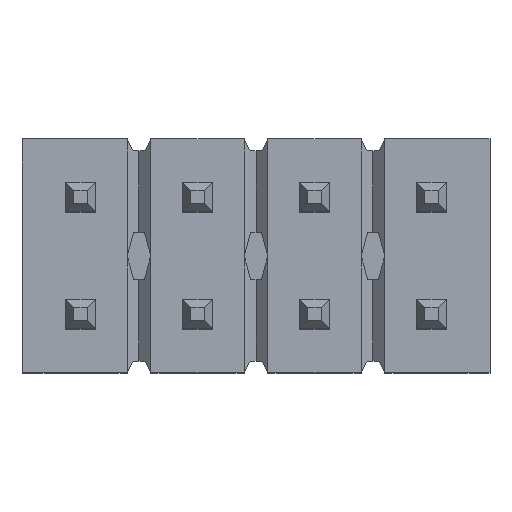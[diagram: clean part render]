
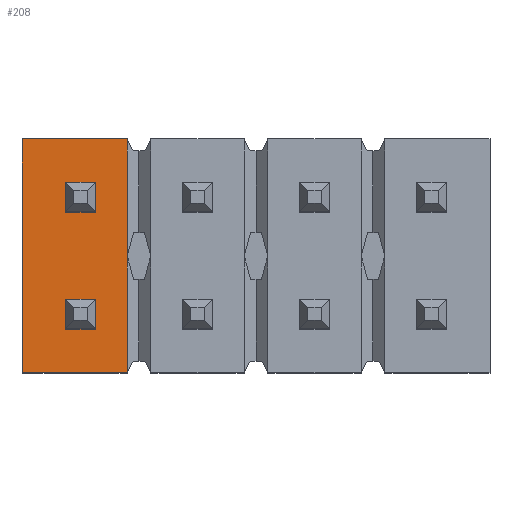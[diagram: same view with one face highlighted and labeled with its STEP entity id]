
A CAD part, top view. The second image highlights one B-rep face of the part: STEP entity #208.
In plain terms, the highlighted planar face has unit normal (0, 0, 1).
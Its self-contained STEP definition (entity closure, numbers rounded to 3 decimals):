
#116 = EDGE_CURVE('',#117,#119,#121,.T.);
#117 = VERTEX_POINT('',#118);
#118 = CARTESIAN_POINT('',(-3.493,-1.617,2.58));
#119 = VERTEX_POINT('',#120);
#120 = CARTESIAN_POINT('',(-3.493,-0.982,2.58));
#121 = LINE('',#122,#123);
#122 = CARTESIAN_POINT('',(-3.493,-1.617,2.58));
#123 = VECTOR('',#124,1.);
#124 = DIRECTION('',(0.,1.,0.));
#188 = EDGE_CURVE('',#189,#117,#191,.T.);
#189 = VERTEX_POINT('',#190);
#190 = CARTESIAN_POINT('',(-4.128,-1.617,2.58));
#191 = LINE('',#192,#193);
#192 = CARTESIAN_POINT('',(-4.128,-1.617,2.58));
#193 = VECTOR('',#194,1.);
#194 = DIRECTION('',(1.,0.,0.));
#208 = ADVANCED_FACE('',(#209,#251,#269),#303,.T.);
#209 = FACE_BOUND('',#210,.T.);
#210 = EDGE_LOOP('',(#211,#221,#229,#237,#245));
#211 = ORIENTED_EDGE('',*,*,#212,.T.);
#212 = EDGE_CURVE('',#213,#215,#217,.T.);
#213 = VERTEX_POINT('',#214);
#214 = CARTESIAN_POINT('',(-5.08,-2.569,2.58));
#215 = VERTEX_POINT('',#216);
#216 = CARTESIAN_POINT('',(-2.794,-2.569,2.58));
#217 = LINE('',#218,#219);
#218 = CARTESIAN_POINT('',(-5.08,-2.569,2.58));
#219 = VECTOR('',#220,1.);
#220 = DIRECTION('',(1.,0.,0.));
#221 = ORIENTED_EDGE('',*,*,#222,.T.);
#222 = EDGE_CURVE('',#215,#223,#225,.T.);
#223 = VERTEX_POINT('',#224);
#224 = CARTESIAN_POINT('',(-2.794,-0.029,2.58));
#225 = LINE('',#226,#227);
#226 = CARTESIAN_POINT('',(-2.794,-0.029,2.58));
#227 = VECTOR('',#228,1.);
#228 = DIRECTION('',(0.,1.,0.));
#229 = ORIENTED_EDGE('',*,*,#230,.T.);
#230 = EDGE_CURVE('',#223,#231,#233,.T.);
#231 = VERTEX_POINT('',#232);
#232 = CARTESIAN_POINT('',(-2.794,2.511,2.58));
#233 = LINE('',#234,#235);
#234 = CARTESIAN_POINT('',(-2.794,-0.029,2.58));
#235 = VECTOR('',#236,1.);
#236 = DIRECTION('',(0.,1.,0.));
#237 = ORIENTED_EDGE('',*,*,#238,.T.);
#238 = EDGE_CURVE('',#231,#239,#241,.T.);
#239 = VERTEX_POINT('',#240);
#240 = CARTESIAN_POINT('',(-5.08,2.511,2.58));
#241 = LINE('',#242,#243);
#242 = CARTESIAN_POINT('',(5.08,2.511,2.58));
#243 = VECTOR('',#244,1.);
#244 = DIRECTION('',(-1.,0.,0.));
#245 = ORIENTED_EDGE('',*,*,#246,.T.);
#246 = EDGE_CURVE('',#239,#213,#247,.T.);
#247 = LINE('',#248,#249);
#248 = CARTESIAN_POINT('',(-5.08,2.511,2.58));
#249 = VECTOR('',#250,1.);
#250 = DIRECTION('',(0.,-1.,0.));
#251 = FACE_BOUND('',#252,.T.);
#252 = EDGE_LOOP('',(#253,#261,#262,#263));
#253 = ORIENTED_EDGE('',*,*,#254,.F.);
#254 = EDGE_CURVE('',#119,#255,#257,.T.);
#255 = VERTEX_POINT('',#256);
#256 = CARTESIAN_POINT('',(-4.128,-0.982,2.58));
#257 = LINE('',#258,#259);
#258 = CARTESIAN_POINT('',(-3.493,-0.982,2.58));
#259 = VECTOR('',#260,1.);
#260 = DIRECTION('',(-1.,0.,0.));
#261 = ORIENTED_EDGE('',*,*,#116,.F.);
#262 = ORIENTED_EDGE('',*,*,#188,.F.);
#263 = ORIENTED_EDGE('',*,*,#264,.F.);
#264 = EDGE_CURVE('',#255,#189,#265,.T.);
#265 = LINE('',#266,#267);
#266 = CARTESIAN_POINT('',(-4.128,-0.982,2.58));
#267 = VECTOR('',#268,1.);
#268 = DIRECTION('',(0.,-1.,0.));
#269 = FACE_BOUND('',#270,.T.);
#270 = EDGE_LOOP('',(#271,#281,#289,#297));
#271 = ORIENTED_EDGE('',*,*,#272,.F.);
#272 = EDGE_CURVE('',#273,#275,#277,.T.);
#273 = VERTEX_POINT('',#274);
#274 = CARTESIAN_POINT('',(-3.493,1.559,2.58));
#275 = VERTEX_POINT('',#276);
#276 = CARTESIAN_POINT('',(-4.128,1.559,2.58));
#277 = LINE('',#278,#279);
#278 = CARTESIAN_POINT('',(-3.493,1.559,2.58));
#279 = VECTOR('',#280,1.);
#280 = DIRECTION('',(-1.,0.,0.));
#281 = ORIENTED_EDGE('',*,*,#282,.F.);
#282 = EDGE_CURVE('',#283,#273,#285,.T.);
#283 = VERTEX_POINT('',#284);
#284 = CARTESIAN_POINT('',(-3.493,0.924,2.58));
#285 = LINE('',#286,#287);
#286 = CARTESIAN_POINT('',(-3.493,0.924,2.58));
#287 = VECTOR('',#288,1.);
#288 = DIRECTION('',(0.,1.,0.));
#289 = ORIENTED_EDGE('',*,*,#290,.F.);
#290 = EDGE_CURVE('',#291,#283,#293,.T.);
#291 = VERTEX_POINT('',#292);
#292 = CARTESIAN_POINT('',(-4.128,0.924,2.58));
#293 = LINE('',#294,#295);
#294 = CARTESIAN_POINT('',(-4.128,0.924,2.58));
#295 = VECTOR('',#296,1.);
#296 = DIRECTION('',(1.,0.,0.));
#297 = ORIENTED_EDGE('',*,*,#298,.F.);
#298 = EDGE_CURVE('',#275,#291,#299,.T.);
#299 = LINE('',#300,#301);
#300 = CARTESIAN_POINT('',(-4.128,1.559,2.58));
#301 = VECTOR('',#302,1.);
#302 = DIRECTION('',(0.,-1.,0.));
#303 = PLANE('',#304);
#304 = AXIS2_PLACEMENT_3D('',#305,#306,#307);
#305 = CARTESIAN_POINT('',(0.,-0.029,2.58));
#306 = DIRECTION('',(0.,0.,1.));
#307 = DIRECTION('',(0.,-1.,0.));
